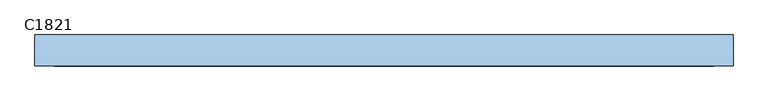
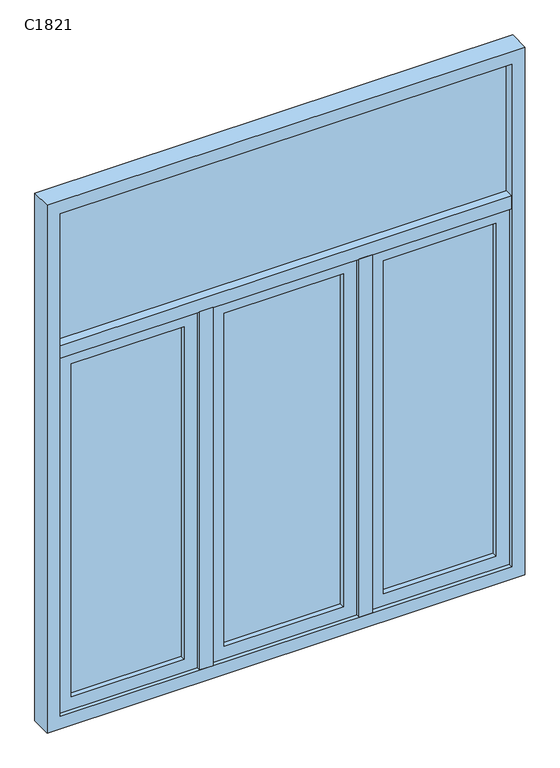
"""IFC4 building model written with IfcOpenShell, lengths in millimetres: window geometry, 组合窗 - 双层三列(三扇平开) - 上部单扇 : C1821."""

import ifcopenshell
import ifcopenshell.guid

model = None  # the IFC model being written
_history = None  # IfcOwnerHistory: only IFC2X3 demands one
_inside = {}  # id of a spatial element -> (the spatial element, [elements in it])
_under = {}  # id of a project, library or spatial element -> (it, [spatial elements below it])
_declared = {}  # id of a project -> (the project, [libraries it declares])
_typed = {}  # id of a type object -> (the type object, [elements of that type])
_made_of = {}  # id of a material, layer set ... -> (it, [elements and type objects made of it])


def new_model(schema):
    """Start an empty IFC model of exactly this schema.

    Asked for "IFC4X3", IfcOpenShell would pick the latest addendum, in which some entities
    have other attributes; the version numbers below select the first issue.
    IFC2X3 requires an IfcOwnerHistory on every rooted entity: one is made here for all.
    """
    global model, _history
    if schema == "IFC4X3":
        model = ifcopenshell.file(schema_version=(4, 3, 0, 0))
    else:
        model = ifcopenshell.file(schema=schema)
    _inside.clear()
    _under.clear()
    _declared.clear()
    _typed.clear()
    _made_of.clear()
    _history = None
    if model.schema == "IFC2X3":
        org = make("IfcOrganization", Name="unknown")
        user = make(
            "IfcPersonAndOrganization",
            ThePerson=make("IfcPerson", FamilyName="unknown"),
            TheOrganization=org,
        )
        app = make(
            "IfcApplication",
            ApplicationDeveloper=org,
            Version="unknown",
            ApplicationFullName="unknown",
            ApplicationIdentifier="unknown",
        )
        _history = make(
            "IfcOwnerHistory",
            OwningUser=user,
            OwningApplication=app,
            ChangeAction="ADDED",
            CreationDate=0,
        )
    return model


def make(cls, **values):
    """One entity of the class cls with the attributes given. An attribute that is None is left unset."""
    return model.create_entity(
        cls, **{name: value for name, value in values.items() if value is not None}
    )


def rooted(cls, **values):
    """An entity with a GlobalId (a new one), such as an element, a storey or a relation."""
    return make(cls, GlobalId=ifcopenshell.guid.new(), OwnerHistory=_history, **values)


def si_unit(unit_type, name, prefix=None):
    """IfcSIUnit, for example si_unit("LENGTHUNIT", "METRE", prefix="MILLI")."""
    return make("IfcSIUnit", UnitType=unit_type, Prefix=prefix, Name=name)


def assignment(units):
    """IfcUnitAssignment: the units of a project."""
    return None if units is None else make("IfcUnitAssignment", Units=units)


def point(xyz):
    """IfcCartesianPoint."""
    return None if xyz is None else make("IfcCartesianPoint", Coordinates=xyz)


def direction(xyz):
    """IfcDirection."""
    return None if xyz is None else make("IfcDirection", DirectionRatios=xyz)


def frame(location, z_axis=None, x_axis=None):
    """IfcAxis2Placement3D, a coordinate frame: its origin and axes. An axis left out is left unset."""
    return make(
        "IfcAxis2Placement3D",
        Location=point(location),
        Axis=direction(z_axis),
        RefDirection=direction(x_axis),
    )


def origin():
    """The frame at (0, 0, 0) with its axes left unset."""
    return frame((0.0, 0.0, 0.0))


def place(relative_to, where):
    """IfcLocalPlacement: puts the frame where relative to a parent placement (None: the world)."""
    return make(
        "IfcLocalPlacement", PlacementRelTo=relative_to, RelativePlacement=where
    )


def context(
    kind, dimensions, precision=None, world=None, true_north=None, identifier=None
):
    """IfcGeometricRepresentationContext, for example the 3D "Model" context."""
    return make(
        "IfcGeometricRepresentationContext",
        ContextIdentifier=identifier,
        ContextType=kind,
        CoordinateSpaceDimension=dimensions,
        Precision=precision,
        WorldCoordinateSystem=world,
        TrueNorth=true_north,
    )


def project(units=None, contexts=None):
    """IfcProject with its units and contexts."""
    return rooted(
        "IfcProject",
        Name="project",
        RepresentationContexts=contexts,
        UnitsInContext=assignment(units),
    )


def spatial(cls, under=None, at=None, **own):
    """A site, building, storey or space (cls), placed at a placement, below another one or the project."""
    s = rooted(cls, ObjectPlacement=at, **own)
    if under is not None:
        _under.setdefault(under.id(), (under, []))[1].append(s)
    return s


def polyline(points):
    """IfcPolyline through the points."""
    return make("IfcPolyline", Points=[point(p) for p in points])


def outline(outer, holes=None, kind="AREA"):
    """IfcArbitraryClosedProfileDef: a profile drawn as a closed curve; with holes, ...WithVoids."""
    if holes is None:
        return make("IfcArbitraryClosedProfileDef", ProfileType=kind, OuterCurve=outer)
    return make(
        "IfcArbitraryProfileDefWithVoids",
        ProfileType=kind,
        OuterCurve=outer,
        InnerCurves=holes,
    )


def extrude(swept, where, along, depth):
    """IfcExtrudedAreaSolid: the profile swept, set in the frame where, extruded along a direction by depth."""
    return make(
        "IfcExtrudedAreaSolid",
        SweptArea=swept,
        Position=where,
        ExtrudedDirection=direction(along),
        Depth=depth,
    )


def shape(context_of_items, identifier, shape_type, items):
    """IfcShapeRepresentation: the items that make up one representation, for example the "Body"."""
    return make(
        "IfcShapeRepresentation",
        ContextOfItems=context_of_items,
        RepresentationIdentifier=identifier,
        RepresentationType=shape_type,
        Items=items,
    )


def source(mapping_origin, context_of_items, identifier, shape_type, items):
    """IfcRepresentationMap: a shape defined once, which mapped items show again and again."""
    return make(
        "IfcRepresentationMap",
        MappingOrigin=mapping_origin,
        MappedRepresentation=shape(context_of_items, identifier, shape_type, items),
    )


def transform(
    local_origin,
    x_axis=None,
    y_axis=None,
    z_axis=None,
    scale=None,
    scale2=None,
    scale3=None,
    uniform=True,
):
    """IfcCartesianTransformationOperator3D, or its non-uniform kind. x_axis, y_axis, z_axis: its Axis1, 2, 3."""
    if uniform:
        return make(
            "IfcCartesianTransformationOperator3D",
            Axis1=direction(x_axis),
            Axis2=direction(y_axis),
            LocalOrigin=point(local_origin),
            Scale=scale,
            Axis3=direction(z_axis),
        )
    return make(
        "IfcCartesianTransformationOperator3DnonUniform",
        Axis1=direction(x_axis),
        Axis2=direction(y_axis),
        LocalOrigin=point(local_origin),
        Scale=scale,
        Axis3=direction(z_axis),
        Scale2=scale2,
        Scale3=scale3,
    )


def mapped(mapping_source, mapping_target):
    """IfcMappedItem: shows the shape of a source again, moved by a transform."""
    return make(
        "IfcMappedItem", MappingSource=mapping_source, MappingTarget=mapping_target
    )


def made_of(thing, what):
    """Note that an element or type object is made of a material, layer set ...; save() writes the relation."""
    if what is not None:
        _made_of.setdefault(what.id(), (what, []))[1].append(thing)
    return thing


def element(
    cls,
    number,
    at=None,
    inside=None,
    cuts=None,
    type_object=None,
    material=None,
    context=None,
    identifier="Body",
    shape_type=None,
    held_by="IfcProductDefinitionShape",
    body=None,
    shapes=None,
    **own,
):
    """One element of the class cls, such as IfcWall. Its Tag is "e" and its number.

    at: its placement. inside: the storey or other place that contains it. cuts: it is an
    opening in that element (IfcRelVoidsElement). A single representation is given by context,
    identifier, shape_type and body (its items); several are given by shapes. held_by: the class
    of the entity that holds the representations. save() writes the other relations.
    """
    e = rooted(cls, Tag="e%d" % number, ObjectPlacement=at, **own)
    if body is not None:
        shapes = [shape(context, identifier, shape_type, body)]
    if shapes is not None:
        e.Representation = make(held_by, Representations=shapes)
    if inside is not None:
        _inside.setdefault(inside.id(), (inside, []))[1].append(e)
    if cuts is not None:
        rooted(
            "IfcRelVoidsElement", RelatingBuildingElement=cuts, RelatedOpeningElement=e
        )
    if type_object is not None:
        _typed.setdefault(type_object.id(), (type_object, []))[1].append(e)
    return made_of(e, material)


def aggregate(whole, parts):
    """IfcRelAggregates: a whole, such as a stair, and the parts it consists of."""
    return rooted("IfcRelAggregates", RelatingObject=whole, RelatedObjects=parts)


def save(model, path):
    """Write the relations noted so far, then the file.

    IfcRelAggregates (storeys below a building ...), IfcRelContainedInSpatialStructure (elements
    in a storey), IfcRelDefinesByType, IfcRelAssociatesMaterial and IfcRelDeclares: one each for
    every whole, place, type object, material and project.
    """
    for whole, parts in _under.values():
        aggregate(whole, parts)
    for where, things in _inside.values():
        rooted(
            "IfcRelContainedInSpatialStructure",
            RelatedElements=things,
            RelatingStructure=where,
        )
    for kind, things in _typed.values():
        rooted("IfcRelDefinesByType", RelatedObjects=things, RelatingType=kind)
    for what, things in _made_of.values():
        rooted("IfcRelAssociatesMaterial", RelatedObjects=things, RelatingMaterial=what)
    for by, libraries in _declared.values():
        rooted("IfcRelDeclares", RelatingContext=by, RelatedDefinitions=libraries)
    model.write(path)


def c1821_f95a3a67(model_context):
    return source(origin(), model_context, "Body", "SweptSolid", [
        extrude(outline(polyline([(225.0, -10.0), (-225.0, -10.0), (-225.0, 0.0), (225.0, 0.0), (225.0, -10.0)])), frame((0.0, 0.0, 1100.0), z_axis=(0.0, 0.0, 1.0), x_axis=(1.0, 0.0, 0.0)), (0.0, 0.0, 1.0), 1325.0),
        extrude(outline(polyline([(2475.0, 275.0), (2475.0, -275.0), (1050.0, -275.0), (1050.0, 275.0), (2475.0, 275.0)]), holes=[polyline([(1100.0, 225.0), (1100.0, -225.0), (2425.0, -225.0), (2425.0, 225.0), (1100.0, 225.0)])]), frame((0.0, -30.0, 0.0), z_axis=(0.0, 1.0, 0.0), x_axis=(0.0, 0.0, 1.0)), (0.0, 0.0, 1.0), 50.0),
        extrude(outline(polyline([(850.0, -10.0), (-850.0, -10.0), (-850.0, 0.0), (850.0, 0.0), (850.0, -10.0)])), frame((0.0, 0.0, 2525.0), z_axis=(0.0, 0.0, 1.0), x_axis=(1.0, 0.0, 0.0)), (0.0, 0.0, 1.0), 525.0),
        extrude(outline(polyline([(-375.0, -10.0), (-800.0, -10.0), (-800.0, 0.0), (-375.0, 0.0), (-375.0, -10.0)])), frame((0.0, 0.0, 1100.0), z_axis=(0.0, 0.0, 1.0), x_axis=(1.0, 0.0, 0.0)), (0.0, 0.0, 1.0), 1325.0),
        extrude(outline(polyline([(2475.0, -325.0), (2475.0, -850.0), (1050.0, -850.0), (1050.0, -325.0), (2475.0, -325.0)]), holes=[polyline([(1100.0, -375.0), (1100.0, -800.0), (2425.0, -800.0), (2425.0, -375.0), (1100.0, -375.0)])]), frame((0.0, -30.0, 0.0), z_axis=(0.0, 1.0, 0.0), x_axis=(0.0, 0.0, 1.0)), (0.0, 0.0, 1.0), 50.0),
        extrude(outline(polyline([(800.0, -10.0), (375.0, -10.0), (375.0, 0.0), (800.0, 0.0), (800.0, -10.0)])), frame((0.0, 0.0, 1100.0), z_axis=(0.0, 0.0, 1.0), x_axis=(1.0, 0.0, 0.0)), (0.0, 0.0, 1.0), 1325.0),
        extrude(outline(polyline([(2475.0, 850.0), (2475.0, 325.0), (1050.0, 325.0), (1050.0, 850.0), (2475.0, 850.0)]), holes=[polyline([(1100.0, 800.0), (1100.0, 375.0), (2425.0, 375.0), (2425.0, 800.0), (1100.0, 800.0)])]), frame((0.0, -30.0, 0.0), z_axis=(0.0, 1.0, 0.0), x_axis=(0.0, 0.0, 1.0)), (0.0, 0.0, 1.0), 50.0),
        extrude(outline(polyline([(275.0, 35.0), (325.0, 35.0), (325.0, -45.0), (275.0, -45.0), (275.0, 35.0)])), frame((0.0, 0.0, 1050.0), z_axis=(0.0, 0.0, 1.0), x_axis=(1.0, 0.0, 0.0)), (0.0, 0.0, 1.0), 1425.0),
        extrude(outline(polyline([(-325.0, 35.0), (-275.0, 35.0), (-275.0, -45.0), (-325.0, -45.0), (-325.0, 35.0)])), frame((0.0, 0.0, 1050.0), z_axis=(0.0, 0.0, 1.0), x_axis=(1.0, 0.0, 0.0)), (0.0, 0.0, 1.0), 1425.0),
        extrude(outline(polyline([(-850.0, 35.0), (850.0, 35.0), (850.0, -45.0), (-850.0, -45.0), (-850.0, 35.0)])), frame((0.0, 0.0, 2475.0), z_axis=(0.0, 0.0, 1.0), x_axis=(1.0, 0.0, 0.0)), (0.0, 0.0, 1.0), 50.0),
        extrude(outline(polyline([(3100.0, -900.0), (1000.0, -900.0), (1000.0, 900.0), (3100.0, 900.0), (3100.0, -900.0)]), holes=[polyline([(3050.0, 850.0), (1050.0, 850.0), (1050.0, -850.0), (3050.0, -850.0), (3050.0, 850.0)])]), frame((0.0, -45.0, 0.0), z_axis=(0.0, 1.0, 0.0), x_axis=(0.0, 0.0, 1.0)), (0.0, 0.0, 1.0), 80.0),
    ])


if __name__ == "__main__":
    model = new_model("IFC4")
    model_context = context("Model", 3, world=origin())
    ifc_project = project(units=[si_unit("LENGTHUNIT", "METRE", prefix="MILLI")], contexts=[model_context])
    site = spatial("IfcSite", under=ifc_project)
    building = spatial("IfcBuilding", under=site)
    placement = place(None, origin())
    c1821_shape = c1821_f95a3a67(model_context)
    element("IfcWindow", 1, ObjectType="组合窗 - 双层三列(三扇平开) - 上部单扇 : C1821", at=placement, inside=building, context=model_context, shape_type="MappedRepresentation", body=[
        mapped(c1821_shape, transform((0.0, 0.0, 0.0), x_axis=(1.0, 0.0, 0.0), y_axis=(0.0, 1.0, 0.0), z_axis=(0.0, 0.0, 1.0))),
    ])
    save(model, "model.ifc")
